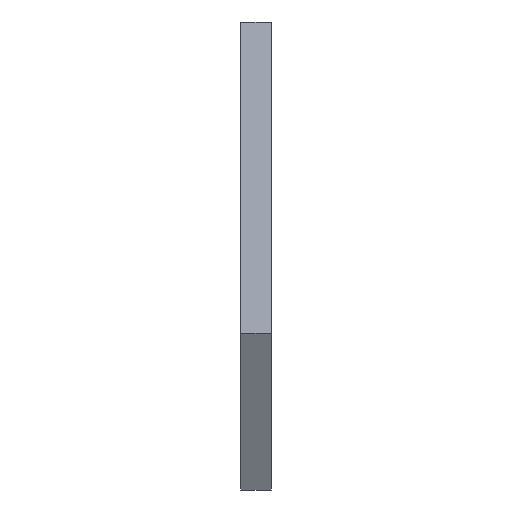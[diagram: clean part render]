
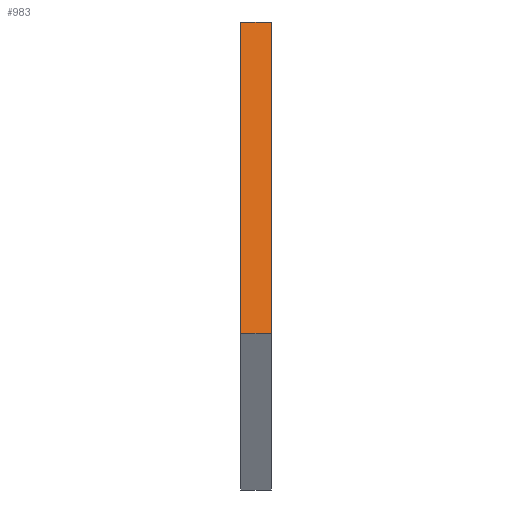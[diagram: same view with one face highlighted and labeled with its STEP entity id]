
A CAD part, front view. The second image highlights one B-rep face of the part: STEP entity #983.
In plain terms, the highlighted planar face has unit normal (0, -0.985, 0.174).
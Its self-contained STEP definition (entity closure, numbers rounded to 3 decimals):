
#37=CARTESIAN_POINT('',(-173.5,-867.539,347.215));
#38=VERTEX_POINT('',#37);
#45=CARTESIAN_POINT('',(-198.5,-867.539,347.215));
#46=VERTEX_POINT('',#45);
#47=CARTESIAN_POINT('',(-198.5,-867.539,347.215));
#48=DIRECTION('',(1.0,0.0,0.0));
#49=VECTOR('',#48,1.);
#50=LINE('',#47,#49);
#51=EDGE_CURVE('',#46,#38,#50,.T.);
#75=CARTESIAN_POINT('',(-173.5,-822.391,603.265));
#76=VERTEX_POINT('',#75);
#83=CARTESIAN_POINT('',(-173.5,-867.539,347.215));
#84=DIRECTION('',(0.,0.174,0.985));
#85=VECTOR('',#84,1.);
#86=LINE('',#83,#85);
#87=EDGE_CURVE('',#38,#76,#86,.T.);
#513=CARTESIAN_POINT('',(-198.5,-822.391,603.265));
#514=VERTEX_POINT('',#513);
#521=CARTESIAN_POINT('',(-173.5,-822.391,603.265));
#522=DIRECTION('',(-1.0,0.,0.));
#523=VECTOR('',#522,1.);
#524=LINE('',#521,#523);
#525=EDGE_CURVE('',#76,#514,#524,.T.);
#565=CARTESIAN_POINT('',(-198.5,-822.391,603.265));
#566=DIRECTION('',(0.,-0.174,-0.985));
#567=VECTOR('',#566,1.);
#568=LINE('',#565,#567);
#569=EDGE_CURVE('',#514,#46,#568,.T.);
#972=CARTESIAN_POINT('',(-198.5,-867.539,347.215));
#973=DIRECTION('',(0.0,-0.985,0.174));
#974=DIRECTION('',(1.0,0.0,0.0));
#975=AXIS2_PLACEMENT_3D('',#972,#973,#974);
#976=PLANE('',#975);
#977=ORIENTED_EDGE('',*,*,#51,.T.);
#978=ORIENTED_EDGE('',*,*,#87,.T.);
#979=ORIENTED_EDGE('',*,*,#525,.T.);
#980=ORIENTED_EDGE('',*,*,#569,.T.);
#981=EDGE_LOOP('',(#977,#978,#979,#980));
#982=FACE_BOUND('',#981,.T.);
#983=ADVANCED_FACE('',(#982),#976,.T.);
